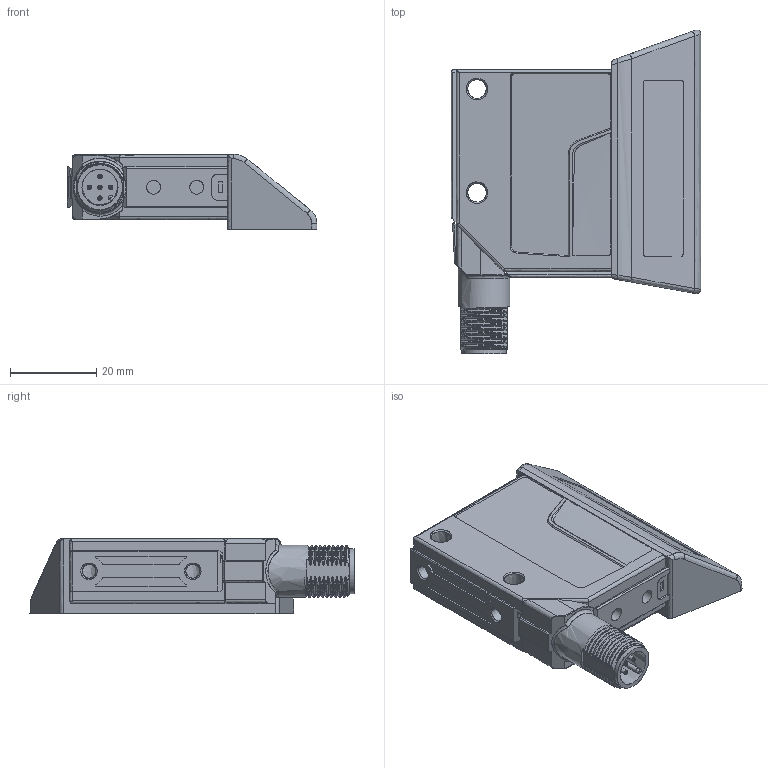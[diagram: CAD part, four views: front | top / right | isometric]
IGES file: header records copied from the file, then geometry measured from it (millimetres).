
Global section: file name: H:\lem\3DCAD_BCL8_UM_Stecker_unten.igs; native system: NX V11.0; preprocessor: SIEMENS PLM Software NX 11.0; date: 20180130.144753; units: millimetre
Bounding box: 57.82 x 74.98 x 17.4 mm (x, y, z)
Surface area: 10861.2 mm2 (no closed solid volume)
Topology: 0 solids, 0 shells, 334 faces, 2218 edges, 2243 vertices
Faces by surface type: bspline 334
